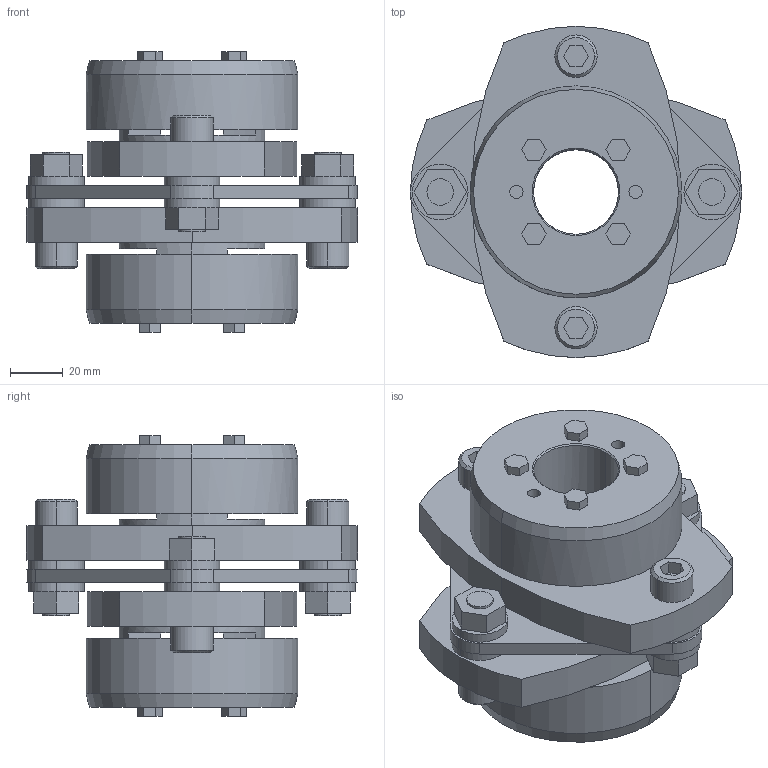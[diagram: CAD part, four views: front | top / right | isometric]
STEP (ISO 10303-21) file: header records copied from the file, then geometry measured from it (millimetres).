
FILE_DESCRIPTION((''),'2;1');
FILE_NAME('LCS-125T7-32×32.stp','2011-09-07T09:47:27',(''),(''),'AutoCAD STEP 2000i','AutoCAD 2000i',', , ');
FILE_SCHEMA(('CONFIG_CONTROL_DESIGN'));
Length unit declared in the file: millimetre
Products named in the file (5): LCS-125T7-32×32; 忣兜1; LC125T7-T032-1; LC125T7-T032; LCS125-ITA
Assembly tree (4 placements, depth 2):
  LCS-125T7-32×32
    忣兜1
    LC125T7-T032-1
    LC125T7-T032
    LCS125-ITA
Bounding box: 125 x 125 x 106 mm (x, y, z)
Volume: 487000.2 mm3; surface area: 97197.8 mm2
Topology: 1 solids, 1 shells, 246 faces, 606 edges, 398 vertices
Faces by surface type: plane 146, cylinder 80, cone 20
Entity records: 7471 total; most frequent: DIRECTION 1306, CARTESIAN_POINT 1255, ORIENTED_EDGE 1212, EDGE_CURVE 606, AXIS2_PLACEMENT_3D 449, VECTOR 408, LINE 408, VERTEX_POINT 398
